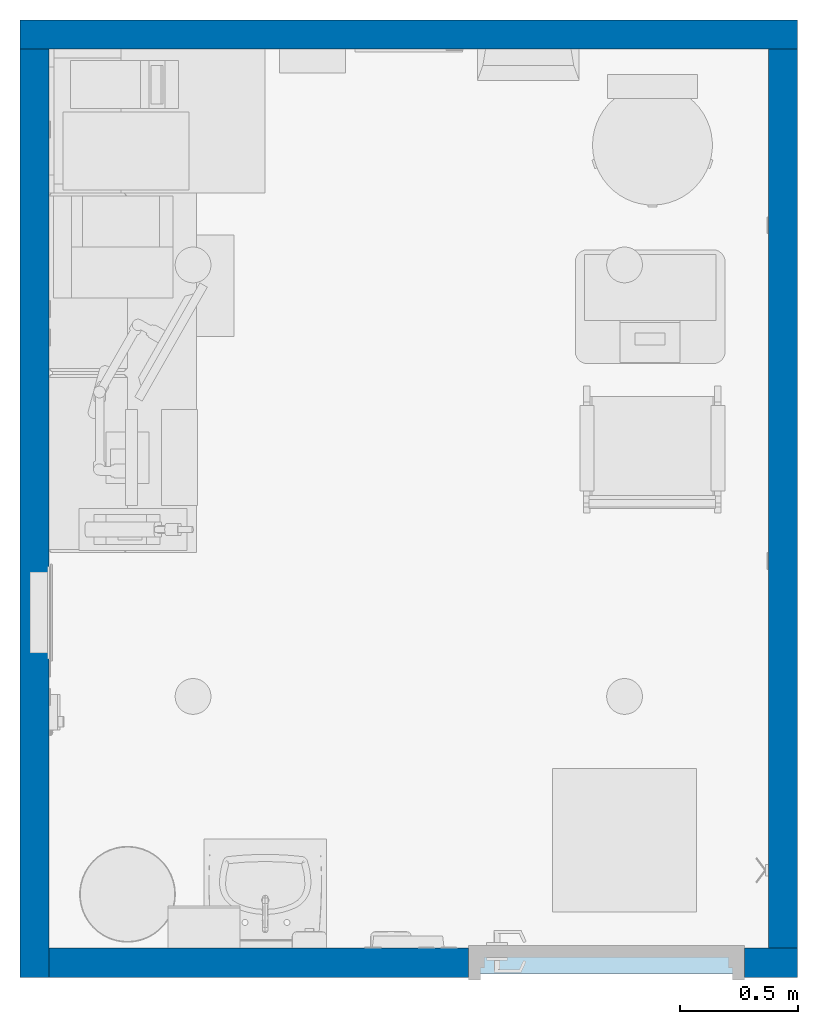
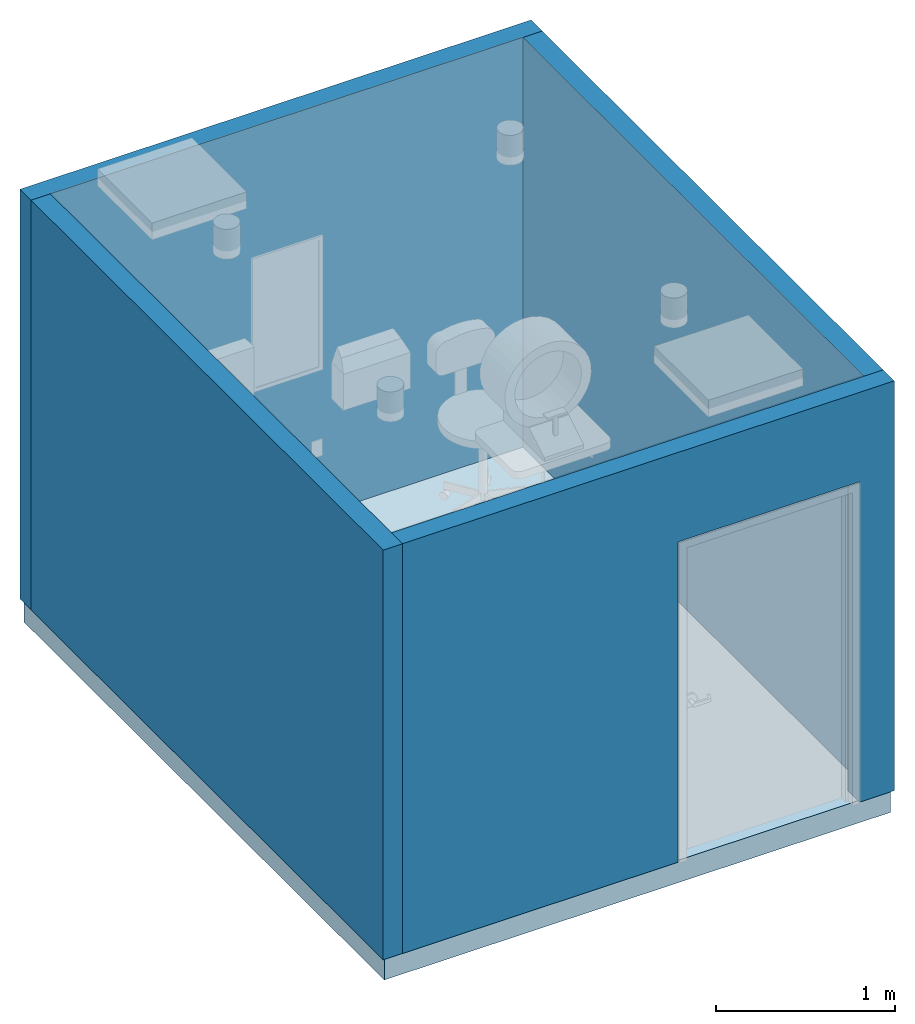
# One storey, part 1 of 11: 4 walls, 1 slab, 1 opening.
"""IFC2X3 building model written with IfcOpenShell, lengths in feet."""

from ifc_helpers import new_model, entity, si_unit, converted_unit, derived_unit, direction, frame, frame_2d, origin, place, context, subcontext, project, spatial, rectangle, extrude, material, layer, layer_set, layer_usage, type_object, element, save


model = new_model("IFC2X3")

# Units and contexts
model_context = context("Model", 3, precision=0.0001, world=origin(), true_north=direction((6.12303176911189e-17, 1.0)))
body_context = subcontext(model_context, "Body", "Model", "MODEL_VIEW")
ifc_project = project(units=[converted_unit("LENGTHUNIT", "FOOT", entity("IfcRatioMeasure", 0.3048), si_unit("LENGTHUNIT", "METRE"), dimensions=[1, 0, 0, 0, 0, 0, 0]), converted_unit("AREAUNIT", "SQUARE FOOT", entity("IfcRatioMeasure", 0.09290304), si_unit("AREAUNIT", "SQUARE_METRE"), dimensions=[2, 0, 0, 0, 0, 0, 0]), converted_unit("VOLUMEUNIT", "CUBIC FOOT", entity("IfcRatioMeasure", 0.028316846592), si_unit("VOLUMEUNIT", "CUBIC_METRE"), dimensions=[3, 0, 0, 0, 0, 0, 0]), converted_unit("PLANEANGLEUNIT", "DEGREE", entity("IfcRatioMeasure", 0.0174532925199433), si_unit("PLANEANGLEUNIT", "RADIAN"), dimensions=[0, 0, 0, 0, 0, 0, 0]), si_unit("MASSUNIT", "GRAM", prefix="KILO"), derived_unit("MASSDENSITYUNIT", [(si_unit("MASSUNIT", "GRAM", prefix="KILO"), 1), (si_unit("LENGTHUNIT", "METRE"), -3)]), si_unit("TIMEUNIT", "SECOND"), si_unit("FREQUENCYUNIT", "HERTZ"), si_unit("THERMODYNAMICTEMPERATUREUNIT", "DEGREE_CELSIUS"), derived_unit("THERMALTRANSMITTANCEUNIT", [(si_unit("MASSUNIT", "GRAM", prefix="KILO"), 1), (si_unit("THERMODYNAMICTEMPERATUREUNIT", "KELVIN"), -1), (si_unit("TIMEUNIT", "SECOND"), -3)]), derived_unit("VOLUMETRICFLOWRATEUNIT", [(si_unit("LENGTHUNIT", "METRE"), 3), (si_unit("TIMEUNIT", "SECOND"), -1)]), si_unit("ELECTRICCURRENTUNIT", "AMPERE"), si_unit("ELECTRICVOLTAGEUNIT", "VOLT"), si_unit("POWERUNIT", "WATT"), si_unit("FORCEUNIT", "NEWTON"), si_unit("ILLUMINANCEUNIT", "LUX"), si_unit("LUMINOUSFLUXUNIT", "LUMEN"), si_unit("LUMINOUSINTENSITYUNIT", "CANDELA"), derived_unit("USERDEFINED", [(si_unit("MASSUNIT", "GRAM", prefix="KILO"), -1), (si_unit("LENGTHUNIT", "METRE"), -2), (si_unit("TIMEUNIT", "SECOND"), 3), (si_unit("LUMINOUSFLUXUNIT", "LUMEN"), 1)]), derived_unit("LINEARVELOCITYUNIT", [(si_unit("LENGTHUNIT", "METRE"), 1), (si_unit("TIMEUNIT", "SECOND"), -1)]), si_unit("PRESSUREUNIT", "PASCAL"), derived_unit("USERDEFINED", [(si_unit("LENGTHUNIT", "METRE"), -2), (si_unit("MASSUNIT", "GRAM", prefix="KILO"), 1), (si_unit("TIMEUNIT", "SECOND"), -2)])], contexts=[model_context])

# Site, building, storey
site_placement = place(None, origin())
site = spatial("IfcSite", under=ifc_project, at=site_placement, Name="Default", CompositionType="ELEMENT")
building_placement = place(site_placement, origin())
building = spatial("IfcBuilding", under=site, at=building_placement, Name="EYE CLINIC:  OPTHALMOLOGY AND OPTOMETRY SERVICES (Ch. 233)", CompositionType="ELEMENT")
storey_placement = place(building_placement, origin())
storey = spatial("IfcBuildingStorey", under=building, at=storey_placement, Name="DATUM", CompositionType="ELEMENT", Elevation=0.0)

# Slab
ifc_material_1 = material(Name="Default Floor")
ifc_layer_1 = layer(ifc_material_1, 0.5)
ifc_layer_set_1 = layer_set([ifc_layer_1], Name="Floor:Generic - 6\"")
ifc_layer_usage_1 = layer_usage(ifc_layer_set_1, "AXIS3", "POSITIVE", 0.0)
slab_placement = place(storey_placement, origin())
element("IfcSlab", 1, at=slab_placement, inside=storey, material=ifc_layer_usage_1, Name="Floor:Generic - 6\"", ObjectType="Floor:Generic - 6\"", PredefinedType="FLOOR", context=body_context, shape_type="SweptSolid", body=[
    extrude(rectangle(XDim=13.2083333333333, YDim=10.7083333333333, at=frame_2d((1.77635683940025e-15, 1.4210854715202e-14), x_axis=(1.0, 0.0))), frame((194.639769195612, 22.760750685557, 0.0), z_axis=(0.0, 0.0, -1.0), x_axis=(0.0, 1.0, 0.0)), (0.0, 0.0, 1.0), 0.5),
])

# Wall
ifc_material_2 = material(Name="Default Wall")
ifc_layer_2 = layer(ifc_material_2, 0.40625)
ifc_layer_set_2 = layer_set([ifc_layer_2], Name="Basic Wall:Interior - 4 7/8\"")
ifc_layer_usage_2 = layer_usage(ifc_layer_set_2, "AXIS2", "NEGATIVE", 0.203125)
wall_type = type_object("IfcWallType", Name="Basic Wall:Interior - 4 7/8\"", PredefinedType="STANDARD", material=ifc_layer_set_2)
wall_1_placement = place(storey_placement, frame((189.233519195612, 29.213875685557, 0.0)))
element("IfcWallStandardCase", 2, at=wall_1_placement, inside=storey, type_object=wall_type, material=ifc_layer_usage_2, Name="Basic Wall:Interior - 4 7/8\"", ObjectType="Basic Wall:Interior - 4 7/8\"", context=body_context, shape_type="SweptSolid", body=[
    extrude(rectangle(XDim=10.8125, YDim=0.40625, at=frame_2d((5.40625, -1.08246744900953e-15), x_axis=(-1.0, 0.0))), origin(), (0.0, 0.0, 1.0), 9.16666666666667),
])

# Wall, opening
ifc_layer_usage_3 = layer_usage(ifc_layer_set_2, "AXIS2", "NEGATIVE", 0.203125)
wall_2_placement = place(storey_placement, frame((200.046019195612, 16.307625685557, 0.0), z_axis=(0.0, 0.0, 1.0), x_axis=(-1.0, 0.0, 0.0)))
wall_2 = element("IfcWallStandardCase", 3, at=wall_2_placement, inside=storey, type_object=wall_type, material=ifc_layer_usage_3, Name="Basic Wall:Interior - 4 7/8\"", ObjectType="Basic Wall:Interior - 4 7/8\"", context=body_context, shape_type="SweptSolid", body=[
    extrude(rectangle(XDim=10.40625, YDim=0.40625, at=frame_2d((5.203125, 1.12410081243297e-15), x_axis=(-1.0, 0.0))), origin(), (0.0, 0.0, 1.0), 9.16666666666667),
])
opening_placement = place(wall_2_placement, frame((4.57291666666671, 0.203124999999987, 0.0)))
element("IfcOpeningElement", 4, at=opening_placement, cuts=wall_2, Name="Single - Flush:42\" x 84\":1", ObjectType="Opening", context=body_context, shape_type="SweptSolid", body=[
    extrude(rectangle(XDim=3.83333333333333, YDim=7.16666666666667, at=frame_2d((3.58333333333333, 1.91666666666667), x_axis=(0.0, 1.0))), frame((0.0, 0.0, 0.0), z_axis=(0.0, -1.0, 0.0), x_axis=(0.0, 0.0, 1.0)), (0.0, 0.0, 1.0), 0.40625),
])

# Walls
ifc_layer_usage_4 = layer_usage(ifc_layer_set_2, "AXIS2", "POSITIVE", -0.203125)
wall_3_placement = place(storey_placement, frame((189.436644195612, 29.010750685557, 0.0), z_axis=(0.0, 0.0, 1.0), x_axis=(0.0, -1.0, 0.0)))
element("IfcWallStandardCase", 5, at=wall_3_placement, inside=storey, type_object=wall_type, material=ifc_layer_usage_4, Name="Basic Wall:Interior - 4 7/8\"", ObjectType="Basic Wall:Interior - 4 7/8\"", context=body_context, shape_type="SweptSolid", body=[
    extrude(rectangle(XDim=12.90625, YDim=0.40625, at=frame_2d((6.453125, -3.89965837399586e-15), x_axis=(-1.0, 0.0))), origin(), (0.0, 0.0, 1.0), 9.16666666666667),
])
ifc_layer_usage_5 = layer_usage(ifc_layer_set_2, "AXIS2", "NEGATIVE", 0.203125)
wall_4_placement = place(storey_placement, frame((199.842894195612, 29.010750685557, 0.0), z_axis=(0.0, 0.0, 1.0), x_axis=(0.0, -1.0, 0.0)))
element("IfcWallStandardCase", 6, at=wall_4_placement, inside=storey, type_object=wall_type, material=ifc_layer_usage_5, Name="Basic Wall:Interior - 4 7/8\"", ObjectType="Basic Wall:Interior - 4 7/8\"", context=body_context, shape_type="SweptSolid", body=[
    extrude(rectangle(XDim=12.5, YDim=0.40625, at=frame_2d((6.25, -4.21884749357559e-15), x_axis=(-1.0, 0.0))), origin(), (0.0, 0.0, 1.0), 9.16666666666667),
])

save(model, "model.ifc")
